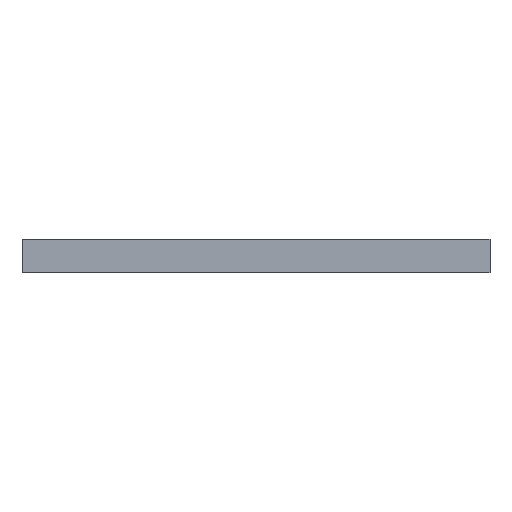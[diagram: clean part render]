
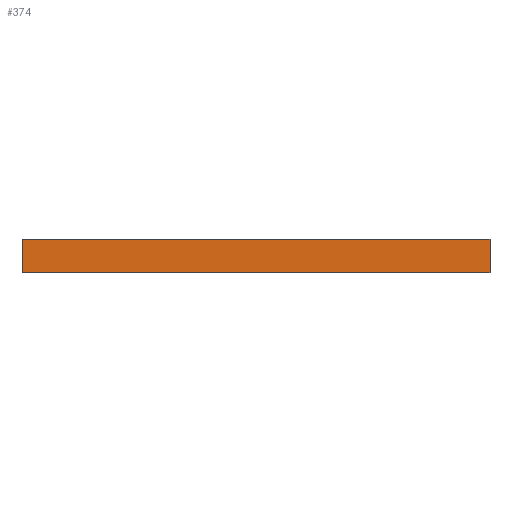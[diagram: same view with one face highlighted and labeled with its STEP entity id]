
A CAD part, front view. The second image highlights one B-rep face of the part: STEP entity #374.
In plain terms, the highlighted planar face has unit normal (0, -1, 0).
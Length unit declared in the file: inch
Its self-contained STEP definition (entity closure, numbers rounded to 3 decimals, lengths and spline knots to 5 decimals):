
#144 = EDGE_CURVE ( 'NONE', #450, #433, #1037, .T. ) ;
#145 = EDGE_CURVE ( 'NONE', #455, #433, #1034, .T. ) ;
#149 = EDGE_CURVE ( 'NONE', #440, #450, #1055, .T. ) ;
#154 = EDGE_CURVE ( 'NONE', #440, #455, #1054, .T. ) ;
#264 = AXIS2_PLACEMENT_3D ( 'NONE', #776, #783, #784 ) ;
#304 = ORIENTED_EDGE ( 'NONE', *, *, #144, .T. ) ;
#311 = ORIENTED_EDGE ( 'NONE', *, *, #145, .F. ) ;
#312 = ORIENTED_EDGE ( 'NONE', *, *, #149, .T. ) ;
#343 = ORIENTED_EDGE ( 'NONE', *, *, #154, .F. ) ;
#374 = ADVANCED_FACE ( 'NONE', ( #1187 ), #780, .F. ) ;
#433 = VERTEX_POINT ( 'NONE', #828 ) ;
#440 = VERTEX_POINT ( 'NONE', #835 ) ;
#450 = VERTEX_POINT ( 'NONE', #845 ) ;
#455 = VERTEX_POINT ( 'NONE', #850 ) ;
#556 = CARTESIAN_POINT ( 'NONE',  ( -0.59013, -2.77459, 0. ) ) ;
#560 = CARTESIAN_POINT ( 'NONE',  ( 1.15987, -2.77459, 0.125 ) ) ;
#561 = DIRECTION ( 'NONE',  ( 1., 0., 0. ) ) ;
#563 = DIRECTION ( 'NONE',  ( 0., 0., -1. ) ) ;
#571 = CARTESIAN_POINT ( 'NONE',  ( -0.59013, -2.77459, 0.125 ) ) ;
#572 = DIRECTION ( 'NONE',  ( 0., 0., -1. ) ) ;
#579 = CARTESIAN_POINT ( 'NONE',  ( -0.59013, -2.77459, 0.125 ) ) ;
#583 = DIRECTION ( 'NONE',  ( 1., 0., 0. ) ) ;
#776 = CARTESIAN_POINT ( 'NONE',  ( -0.59013, -2.77459, 0.125 ) ) ;
#780 = PLANE ( 'NONE',  #264 ) ;
#783 = DIRECTION ( 'NONE',  ( 0., 1., 0. ) ) ;
#784 = DIRECTION ( 'NONE',  ( -1., 0., 0. ) ) ;
#828 = CARTESIAN_POINT ( 'NONE',  ( 1.15987, -2.77459, 0. ) ) ;
#835 = CARTESIAN_POINT ( 'NONE',  ( -0.59013, -2.77459, 0.125 ) ) ;
#845 = CARTESIAN_POINT ( 'NONE',  ( -0.59013, -2.77459, 0. ) ) ;
#850 = CARTESIAN_POINT ( 'NONE',  ( 1.15987, -2.77459, 0.125 ) ) ;
#967 = EDGE_LOOP ( 'NONE', ( #304, #311, #343, #312 ) ) ;
#1034 = LINE ( 'NONE', #560, #1047 ) ;
#1037 = LINE ( 'NONE', #556, #1045 ) ;
#1045 = VECTOR ( 'NONE', #561, 39.37008 ) ;
#1047 = VECTOR ( 'NONE', #563, 39.37008 ) ;
#1054 = LINE ( 'NONE', #579, #1064 ) ;
#1055 = LINE ( 'NONE', #571, #1056 ) ;
#1056 = VECTOR ( 'NONE', #572, 39.37008 ) ;
#1064 = VECTOR ( 'NONE', #583, 39.37008 ) ;
#1187 = FACE_OUTER_BOUND ( 'NONE', #967, .T. ) ;
